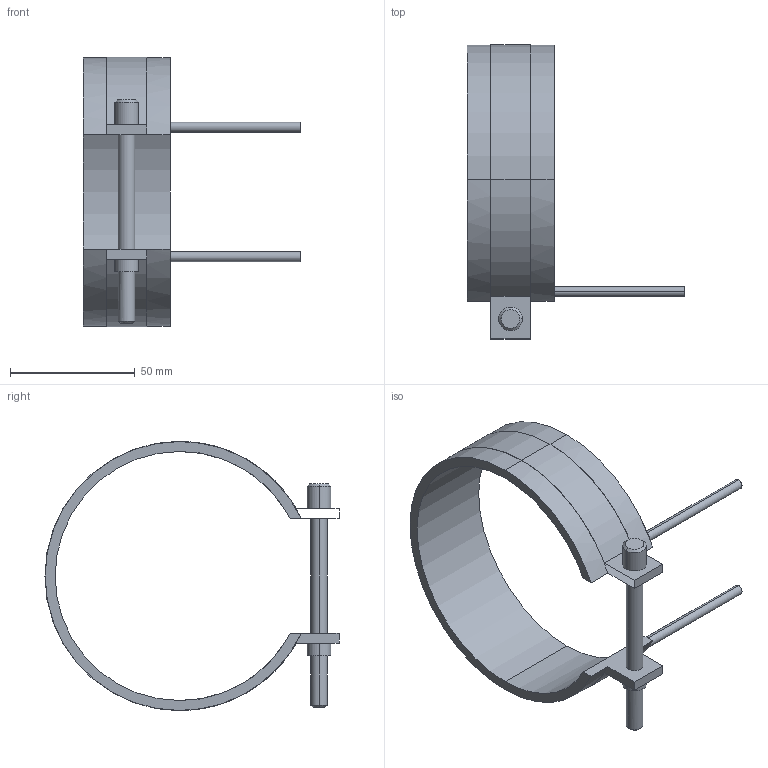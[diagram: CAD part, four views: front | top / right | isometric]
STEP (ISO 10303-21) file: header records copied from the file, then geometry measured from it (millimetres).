
FILE_DESCRIPTION(('CATIA V5 STEP Exchange'),'2;1');
FILE_NAME('C:\Users\Utente\Desktop\IO LAVORO\3D X SITO CF\X SITO\PLASTICA\RF2\14100035.stp','2021-04-03T08:55:00+00:00',('none'),('none'),'CATIA Version 5 Release 20 GA (IN-10)','CATIA V5 STEP AP203','none');
FILE_SCHEMA(('CONFIG_CONTROL_DESIGN'));
Length unit declared in the file: millimetre
Products named in the file (1): 14100035
Bounding box: 87.5 x 118.1 x 108.2 mm (x, y, z)
Volume: 46294.2 mm3; surface area: 26490 mm2
Topology: 1 solids, 1 shells, 45 faces, 116 edges, 76 vertices
Faces by surface type: cylinder 24, plane 17, cone 4
Entity records: 1400 total; most frequent: CARTESIAN_POINT 274, ORIENTED_EDGE 232, DIRECTION 196, EDGE_CURVE 116, AXIS2_PLACEMENT_3D 104, VERTEX_POINT 76, CIRCLE 62, VECTOR 52
